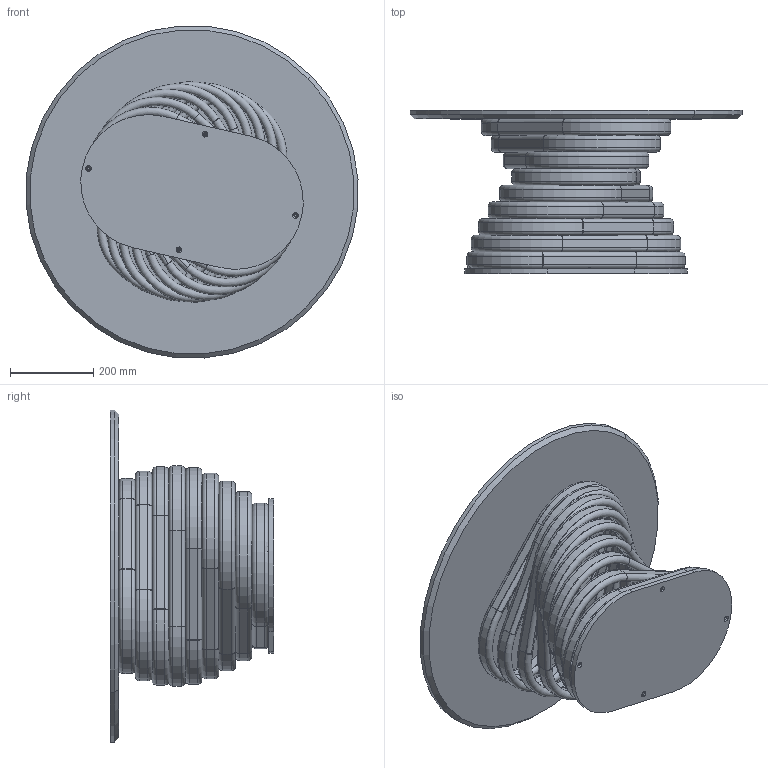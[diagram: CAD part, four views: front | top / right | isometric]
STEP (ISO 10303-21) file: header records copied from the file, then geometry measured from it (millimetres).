
FILE_DESCRIPTION (( 'STEP AP203' ), '1' );
FILE_NAME ('RL12M.STEP', '2024-08-06T12:34:16', ( '' ), ( '' ), 'SwSTEP 2.0', 'SolidWorks 2022', '' );
FILE_SCHEMA (( 'CONFIG_CONTROL_DESIGN' ));
Length unit declared in the file: millimetre
Products named in the file (12): P0000005-00-FILETTO M24 CON FORO H.20mm; P0000003-00-STAFFA DI FISSAGGIO DIAMETRO 250_P0000003-250mm normale; M8xXXmm_M8x20mm; RLBP000000-00-ROTOLO LOW PIASTRA; M0XMXX-00-Piani Rotondi in marmo_D.80 CON PIASTRA; RLBP000000INT-00-ANELLO INTERMEDIO._Default<A macchina>; RLBP000000SUP-00-ANELLO CON PIASTRA SUPERIORE_Default<A macchina>; M8xXXmm_M8x24mm; RLB1000000-00-ROTOLO LOW 9 ANELLI; M0X-00- D. piani marmo_D.800; RL12M; RLBP000000INF-00-ANELLO INFERIORE FILETTATO_Default<A macchina>
Assembly tree (19 placements, depth 3):
  RL12M
    RLB1000000-00-ROTOLO LOW 9 ANELLI
      RLBP000000INF-00-ANELLO INFERIORE FILETTATO_Default<A macchina>
      RLBP000000INT-00-ANELLO INTERMEDIO._Default<A macchina>  x7
      RLBP000000SUP-00-ANELLO CON PIASTRA SUPERIORE_Default<A macchina>
    RLBP000000-00-ROTOLO LOW PIASTRA
    M0XMXX-00-Piani Rotondi in marmo_D.80 CON PIASTRA
      M0X-00- D. piani marmo_D.800
      P0000003-00-STAFFA DI FISSAGGIO DIAMETRO 250_P0000003-250mm normale
      M8xXXmm_M8x24mm
      P0000005-00-FILETTO M24 CON FORO H.20mm
      M8xXXmm_M8x20mm  x3
Bounding box: 797.67 x 392 x 797.67 mm (x, y, z)
Volume: 14469909 mm3; surface area: 3859707.9 mm2
Topology: 46 solids, 46 shells, 632 faces, 1518 edges, 968 vertices
Faces by surface type: cylinder 239, plane 230, torus 88, cone 70, bspline 5
Entity records: 13773 total; most frequent: CARTESIAN_POINT 4899, DIRECTION 1592, ORIENTED_EDGE 1500, EDGE_CURVE 750, AXIS2_PLACEMENT_3D 635, VERTEX_POINT 480, EDGE_LOOP 372, LINE 322
